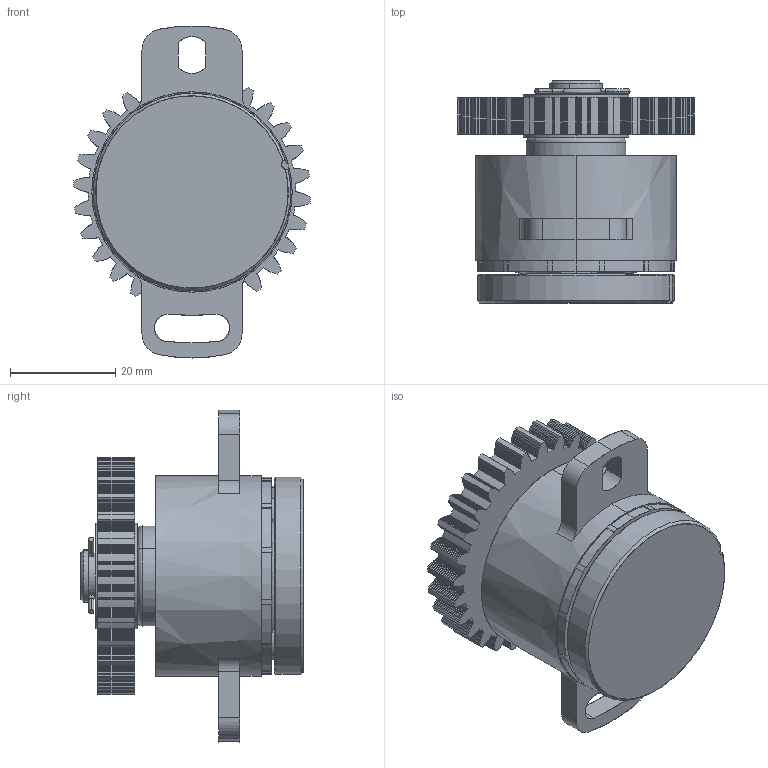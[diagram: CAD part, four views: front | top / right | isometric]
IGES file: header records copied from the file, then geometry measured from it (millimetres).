
Start section: SolidWorks IGES file using analytic representation for surfaces
Global section: file name: C:\3D-DATA\型式\R\【提出用】\IGS\FRN-P2(G1).IGS; native system: SolidWorks 2014; preprocessor: SolidWorks 2014; author: flgijutsu; date: 140516.193737; units: millimetre
Bounding box: 44.95 x 42.2 x 63 mm (x, y, z)
Surface area: 18651.2 mm2 (no closed solid volume)
Topology: 0 solids, 0 shells, 1474 faces, 11079 edges, 11079 vertices
Faces by surface type: bspline 1310, revolution 164
